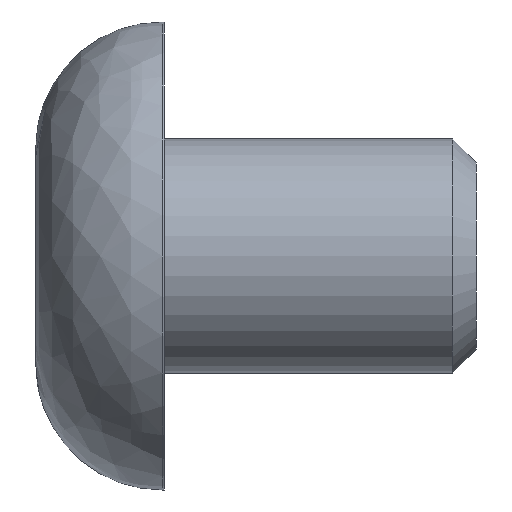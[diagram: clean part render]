
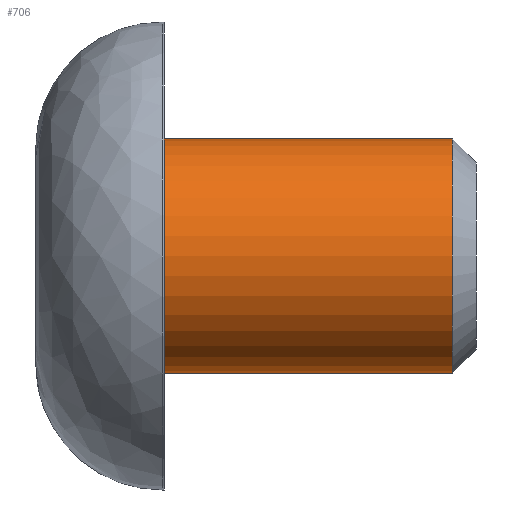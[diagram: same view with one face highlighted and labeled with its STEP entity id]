
A CAD part, front view. The second image highlights one B-rep face of the part: STEP entity #706.
In plain terms, the highlighted cylindrical face has radius 3 mm (diameter 6 mm), a partial arc.
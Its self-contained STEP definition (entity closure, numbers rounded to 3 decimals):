
#8 = CIRCLE ( 'NONE', #718, 3. ) ;
#72 = VERTEX_POINT ( 'NONE', #471 ) ;
#84 = EDGE_CURVE ( 'NONE', #269, #235, #380, .T. ) ;
#164 = CARTESIAN_POINT ( 'NONE',  ( 6.993, 0., 0. ) ) ;
#223 = CYLINDRICAL_SURFACE ( 'NONE', #420, 3. ) ;
#230 = CARTESIAN_POINT ( 'NONE',  ( 3.3, 0., -3. ) ) ;
#235 = VERTEX_POINT ( 'NONE', #731 ) ;
#238 = DIRECTION ( 'NONE',  ( 0., 0., 1. ) ) ;
#243 = DIRECTION ( 'NONE',  ( -1., 0., 0. ) ) ;
#247 = CARTESIAN_POINT ( 'NONE',  ( 3.3, 0., 0. ) ) ;
#268 = EDGE_CURVE ( 'NONE', #72, #269, #8, .T. ) ;
#269 = VERTEX_POINT ( 'NONE', #711 ) ;
#346 = EDGE_LOOP ( 'NONE', ( #580, #682, #589, #600 ) ) ;
#351 = CARTESIAN_POINT ( 'NONE',  ( 6.993, 0., 3. ) ) ;
#357 = DIRECTION ( 'NONE',  ( -1., 0., 0. ) ) ;
#378 = DIRECTION ( 'NONE',  ( -1., 0., 0. ) ) ;
#380 = LINE ( 'NONE', #351, #749 ) ;
#420 = AXIS2_PLACEMENT_3D ( 'NONE', #164, #378, #634 ) ;
#471 = CARTESIAN_POINT ( 'NONE',  ( 10.687, 0., -3. ) ) ;
#498 = EDGE_CURVE ( 'NONE', #535, #235, #585, .T. ) ;
#524 = DIRECTION ( 'NONE',  ( -1., 0., 0. ) ) ;
#535 = VERTEX_POINT ( 'NONE', #230 ) ;
#580 = ORIENTED_EDGE ( 'NONE', *, *, #825, .F. ) ;
#585 = CIRCLE ( 'NONE', #619, 3. ) ;
#589 = ORIENTED_EDGE ( 'NONE', *, *, #84, .T. ) ;
#600 = ORIENTED_EDGE ( 'NONE', *, *, #498, .F. ) ;
#606 = VECTOR ( 'NONE', #524, 1000. ) ;
#619 = AXIS2_PLACEMENT_3D ( 'NONE', #247, #243, #238 ) ;
#634 = DIRECTION ( 'NONE',  ( 0., 0., 1. ) ) ;
#678 = DIRECTION ( 'NONE',  ( 0., 0., 1. ) ) ;
#681 = DIRECTION ( 'NONE',  ( -1., 0., 0. ) ) ;
#682 = ORIENTED_EDGE ( 'NONE', *, *, #268, .T. ) ;
#683 = CARTESIAN_POINT ( 'NONE',  ( 10.687, 0., 0. ) ) ;
#706 = ADVANCED_FACE ( 'NONE', ( #755 ), #223, .T. ) ;
#711 = CARTESIAN_POINT ( 'NONE',  ( 10.687, 0., 3. ) ) ;
#718 = AXIS2_PLACEMENT_3D ( 'NONE', #683, #681, #678 ) ;
#731 = CARTESIAN_POINT ( 'NONE',  ( 3.3, 0., 3. ) ) ;
#749 = VECTOR ( 'NONE', #357, 1000. ) ;
#755 = FACE_OUTER_BOUND ( 'NONE', #346, .T. ) ;
#764 = LINE ( 'NONE', #778, #606 ) ;
#778 = CARTESIAN_POINT ( 'NONE',  ( 6.993, 0., -3. ) ) ;
#825 = EDGE_CURVE ( 'NONE', #72, #535, #764, .T. ) ;
